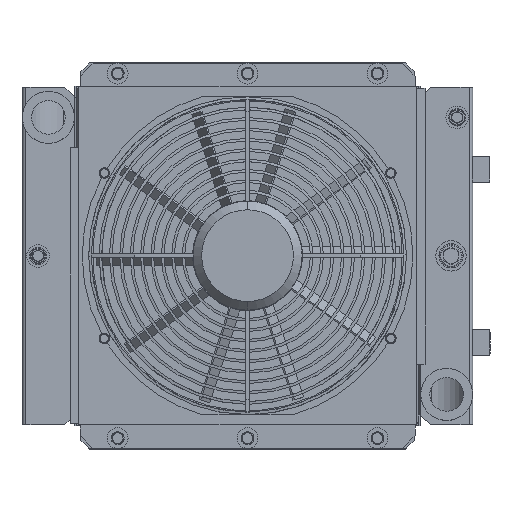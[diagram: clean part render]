
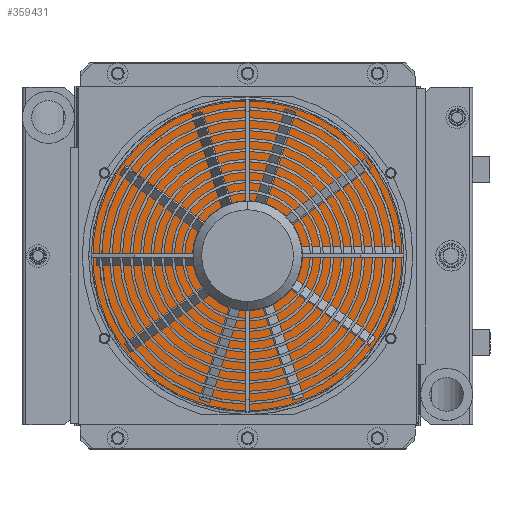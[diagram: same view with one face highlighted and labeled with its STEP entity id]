
A CAD part, top view. The second image highlights one B-rep face of the part: STEP entity #359431.
In plain terms, the highlighted planar face has unit normal (0, 0, 1).
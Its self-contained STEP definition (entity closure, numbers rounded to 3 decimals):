
#357101=CARTESIAN_POINT(' ',(194.247,385.89,47.));
#357102=VERTEX_POINT(' ',#357101);
#357456=CARTESIAN_POINT(' ',(-194.247,385.89,47.));
#357457=VERTEX_POINT(' ',#357456);
#357471=CARTESIAN_POINT(' ',(194.247,385.89,47.));
#357476=DIRECTION(' ',(-1.,0.,0.));
#357481=VECTOR(' ',#357476,1.);
#357486=LINE(' ',#357471,#357481);
#357491=EDGE_CURVE(' ',#357102,#357457,#357486,.T.);
#357626=CARTESIAN_POINT(' ',(194.247,385.89,47.));
#357631=DIRECTION(' ',(0.,-1.,0.));
#357636=VECTOR(' ',#357631,1.);
#357641=LINE(' ',#357626,#357636);
#357646=CARTESIAN_POINT(' ',(194.247,0.,47.));
#357647=VERTEX_POINT(' ',#357646);
#357651=EDGE_CURVE(' ',#357102,#357647,#357641,.T.);
#359216=CARTESIAN_POINT(' ',(-194.247,385.89,47.));
#359221=DIRECTION(' ',(0.,-1.,0.));
#359226=VECTOR(' ',#359221,1.);
#359231=LINE(' ',#359216,#359226);
#359236=CARTESIAN_POINT(' ',(-194.247,0.,47.));
#359237=VERTEX_POINT(' ',#359236);
#359241=EDGE_CURVE(' ',#357457,#359237,#359231,.T.);
#359351=CARTESIAN_POINT(' ',(-194.247,0.,47.));
#359356=DIRECTION(' ',(0.,0.,1.));
#359361=DIRECTION(' ',(1.,0.,0.));
#359366=AXIS2_PLACEMENT_3D(' ',#359351,#359356,#359361);
#359371=PLANE(' ',#359366);
#359376=ORIENTED_EDGE(' ',*,*,#357651,.F.);
#359381=ORIENTED_EDGE(' ',*,*,#357491,.T.);
#359386=ORIENTED_EDGE(' ',*,*,#359241,.T.);
#359391=CARTESIAN_POINT(' ',(194.247,0.,47.));
#359396=DIRECTION(' ',(-1.,0.,0.));
#359401=VECTOR(' ',#359396,1.);
#359406=LINE(' ',#359391,#359401);
#359411=EDGE_CURVE(' ',#357647,#359237,#359406,.T.);
#359416=ORIENTED_EDGE(' ',*,*,#359411,.F.);
#359421=EDGE_LOOP(' ',(#359376,#359381,#359386,#359416));
#359426=FACE_OUTER_BOUND(' ',#359421,.T.);
#359431=ADVANCED_FACE(' ',(#359426),#359371,.T.);
